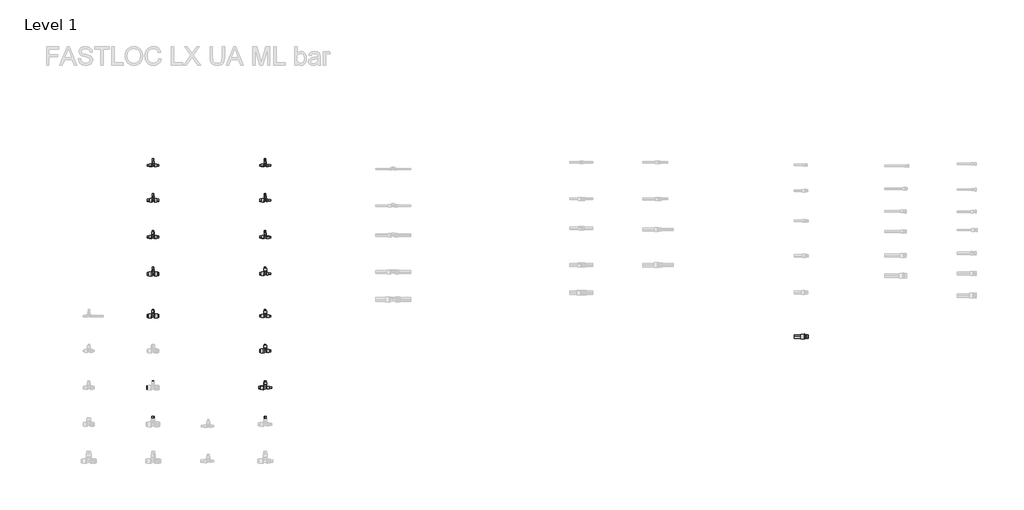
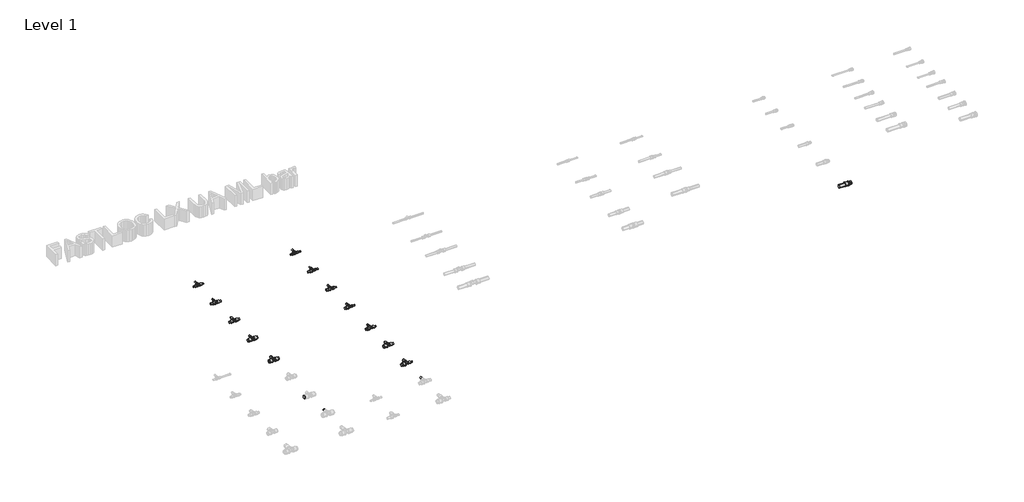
# One storey, part 22 of 78: 41 pipe segments, 13 pipe fittings.
"""IFC4 building model written with IfcOpenShell, lengths in millimetres."""

from ifc_helpers import new_model, si_unit, point, frame, frame_2d, origin, place, context, project, spatial, circle_curve, trimmed, segment, composite_curve, outline, extrude, transform, mapped, element, save
from components import pipe_fitting_7435f538, pipe_fitting_5ae7c970, pipe_fitting_e97a97d3, pipe_fitting_d9a56b63, pipe_fitting_a094db19, pipe_fitting_5d5decb5, pipe_fitting_f2600fd0, pipe_fitting_8d489ee2, pipe_fitting_8fb58d5f, pipe_fitting_db17a53a, pipe_fitting_3bea6388, pipe_fitting_e638986c, pipe_fitting_e8fea69e

model = new_model("IFC4")

# Units and contexts
model_context = context("Model", 3, world=origin())
ifc_project = project(units=[si_unit("LENGTHUNIT", "METRE", prefix="MILLI")], contexts=[model_context])

# Site, building, storey
site = spatial("IfcSite", under=ifc_project)
building = spatial("IfcBuilding", under=site)
storey = spatial("IfcBuildingStorey", under=building, Name="Level 1", Elevation=0.0)

# Pipe fittings
placement = place(None, origin())
pipe_fitting_shape = pipe_fitting_7435f538(model_context)
element("IfcPipeFitting", 1, ObjectType="FASTLOC_T-piece_LX : FSL T-Piece LX UA", at=placement, inside=storey, context=model_context, shape_type="MappedRepresentation", body=[
    mapped(pipe_fitting_shape, transform((426.7498072, -11880.2405791, 0.0), x_axis=(1.0, 0.0, 0.0), y_axis=(0.0, 1.0, 0.0), z_axis=(0.0, 0.0, 1.0))),
])
pipe_fitting_2_shape = pipe_fitting_5ae7c970(model_context)
element("IfcPipeFitting", 2, ObjectType="FASTLOC_T-piece_LX : FSL T-Piece LX UA", at=placement, inside=storey, context=model_context, shape_type="MappedRepresentation", body=[
    mapped(pipe_fitting_2_shape, transform((426.7498072, -10240.2405791, 0.0), x_axis=(1.0, 0.0, 0.0), y_axis=(0.0, 1.0, 0.0), z_axis=(0.0, 0.0, 1.0))),
])
pipe_fitting_3_shape = pipe_fitting_e97a97d3(model_context)
element("IfcPipeFitting", 3, ObjectType="FASTLOC_T-piece_LX : FSL T-Piece LX UA", at=placement, inside=storey, context=model_context, shape_type="MappedRepresentation", body=[
    mapped(pipe_fitting_3_shape, transform((426.7498072, -10620.2405791, 0.0), x_axis=(1.0, 0.0, 0.0), y_axis=(0.0, 1.0, 0.0), z_axis=(0.0, 0.0, 1.0))),
])
pipe_fitting_4_shape = pipe_fitting_d9a56b63(model_context)
element("IfcPipeFitting", 4, ObjectType="FASTLOC_T-piece_LX : FSL T-Piece LX UA", at=placement, inside=storey, context=model_context, shape_type="MappedRepresentation", body=[
    mapped(pipe_fitting_4_shape, transform((426.7498072, -11020.2405791, 0.0), x_axis=(1.0, 0.0, 0.0), y_axis=(0.0, 1.0, 0.0), z_axis=(0.0, 0.0, 1.0))),
])
pipe_fitting_5_shape = pipe_fitting_a094db19(model_context)
element("IfcPipeFitting", 5, ObjectType="FASTLOC_T-piece_LX : FSL T-Piece LX UA", at=placement, inside=storey, context=model_context, shape_type="MappedRepresentation", body=[
    mapped(pipe_fitting_5_shape, transform((426.7498072, -11420.2405791, 0.0), x_axis=(1.0, 0.0, 0.0), y_axis=(0.0, 1.0, 0.0), z_axis=(0.0, 0.0, 1.0))),
])
pipe_fitting_6_shape = pipe_fitting_5d5decb5(model_context)
element("IfcPipeFitting", 6, ObjectType="FASTLOC_T-piece_LX : FSL T-Piece LX UA", at=placement, inside=storey, context=model_context, shape_type="MappedRepresentation", body=[
    mapped(pipe_fitting_6_shape, transform((1646.7498072, -11880.2405791, 0.0), x_axis=(1.0, 0.0, 0.0), y_axis=(0.0, 1.0, 0.0), z_axis=(0.0, 0.0, 1.0))),
])
pipe_fitting_7_shape = pipe_fitting_f2600fd0(model_context)
element("IfcPipeFitting", 7, ObjectType="FASTLOC_T-piece_LX : FSL T-Piece LX UA", at=placement, inside=storey, context=model_context, shape_type="MappedRepresentation", body=[
    mapped(pipe_fitting_7_shape, transform((1646.7498072, -12260.2405791, 0.0), x_axis=(1.0, 0.0, 0.0), y_axis=(0.0, 1.0, 0.0), z_axis=(0.0, 0.0, 1.0))),
])
pipe_fitting_8_shape = pipe_fitting_8d489ee2(model_context)
element("IfcPipeFitting", 8, ObjectType="FASTLOC_T-piece_LX : FSL T-Piece LX UA", at=placement, inside=storey, context=model_context, shape_type="MappedRepresentation", body=[
    mapped(pipe_fitting_8_shape, transform((1646.7498072, -12660.2405791, 0.0), x_axis=(1.0, 0.0, 0.0), y_axis=(0.0, 1.0, 0.0), z_axis=(0.0, 0.0, 1.0))),
])
pipe_fitting_9_shape = pipe_fitting_8fb58d5f(model_context)
element("IfcPipeFitting", 9, ObjectType="FASTLOC_T-piece_LX : FSL T-Piece LX UA", at=placement, inside=storey, context=model_context, shape_type="MappedRepresentation", body=[
    mapped(pipe_fitting_9_shape, transform((1646.7498072, -10240.2405791, 0.0), x_axis=(1.0, 0.0, 0.0), y_axis=(0.0, 1.0, 0.0), z_axis=(0.0, 0.0, 1.0))),
])
pipe_fitting_10_shape = pipe_fitting_db17a53a(model_context)
element("IfcPipeFitting", 10, ObjectType="FASTLOC_T-piece_LX : FSL T-Piece LX UA", at=placement, inside=storey, context=model_context, shape_type="MappedRepresentation", body=[
    mapped(pipe_fitting_10_shape, transform((1646.7498072, -10620.2405791, 0.0), x_axis=(1.0, 0.0, 0.0), y_axis=(0.0, 1.0, 0.0), z_axis=(0.0, 0.0, 1.0))),
])
pipe_fitting_11_shape = pipe_fitting_3bea6388(model_context)
element("IfcPipeFitting", 11, ObjectType="FASTLOC_T-piece_LX : FSL T-Piece LX UA", at=placement, inside=storey, context=model_context, shape_type="MappedRepresentation", body=[
    mapped(pipe_fitting_11_shape, transform((1646.7498072, -11020.2405791, 0.0), x_axis=(1.0, 0.0, 0.0), y_axis=(0.0, 1.0, 0.0), z_axis=(0.0, 0.0, 1.0))),
])
pipe_fitting_12_shape = pipe_fitting_e638986c(model_context)
element("IfcPipeFitting", 12, ObjectType="FASTLOC_T-piece_LX : FSL T-Piece LX UA", at=placement, inside=storey, context=model_context, shape_type="MappedRepresentation", body=[
    mapped(pipe_fitting_12_shape, transform((1646.7498072, -11420.2405791, 0.0), x_axis=(1.0, 0.0, 0.0), y_axis=(0.0, 1.0, 0.0), z_axis=(0.0, 0.0, 1.0))),
])
pipe_fitting_13_shape = pipe_fitting_e8fea69e(model_context)
element("IfcPipeFitting", 13, ObjectType="FASTLOC_Adapter_LX, with external thread : FSL A C external UA", at=placement, inside=storey, context=model_context, shape_type="MappedRepresentation", body=[
    mapped(pipe_fitting_13_shape, transform((7526.8953131, -12104.2068389, 0.0), x_axis=(1.0, 0.0, 0.0), y_axis=(0.0, 1.0, 0.0), z_axis=(0.0, 0.0, 1.0))),
])

# Pipe segments
element("IfcPipeSegment", 14, ObjectType="FASTLOC LX ML UA bar", at=placement, inside=storey, context=model_context, shape_type="SweptSolid", body=[
    extrude(outline(composite_curve([segment(trimmed(circle_curve(frame_2d((-11880.2405791, 0.0)), 16.0), [point((-11896.2405791, 0.0))], [point((-11880.2405791, 16.0))], False, "CARTESIAN"), True, "CONTINUOUS"), segment(trimmed(circle_curve(frame_2d((-11880.2405791, 0.0)), 16.0), [point((-11880.2405791, 16.0))], [point((-11864.2405791, 0.0))], False, "CARTESIAN"), True, "CONTINUOUS"), segment(trimmed(circle_curve(frame_2d((-11880.2405791, 0.0)), 16.0), [point((-11864.2405791, 0.0))], [point((-11880.2405791, -16.0))], False, "CARTESIAN"), True, "CONTINUOUS"), segment(trimmed(circle_curve(frame_2d((-11880.2405791, 0.0)), 16.0), [point((-11880.2405791, -16.0))], [point((-11896.2405791, 0.0))], False, "CARTESIAN"), True, "CONTINUOUS")], self_intersect=False)), frame((446.9498072, 0.0, 0.0), z_axis=(1.0, 0.0, 0.0), x_axis=(0.0, 1.0, 0.0)), (0.0, 0.0, 1.0), 41.8),
])
element("IfcPipeSegment", 15, ObjectType="FASTLOC LX ML UA bar", at=placement, inside=storey, context=model_context, shape_type="SweptSolid", body=[
    extrude(outline(composite_curve([segment(trimmed(circle_curve(frame_2d((-11880.2405791, 0.0)), 16.0), [point((-11864.2405791, 0.0))], [point((-11880.2405791, -16.0))], False, "CARTESIAN"), True, "CONTINUOUS"), segment(trimmed(circle_curve(frame_2d((-11880.2405791, 0.0)), 16.0), [point((-11880.2405791, -16.0))], [point((-11896.2405791, 0.0))], False, "CARTESIAN"), True, "CONTINUOUS"), segment(trimmed(circle_curve(frame_2d((-11880.2405791, 0.0)), 16.0), [point((-11896.2405791, 0.0))], [point((-11880.2405791, 16.0))], False, "CARTESIAN"), True, "CONTINUOUS"), segment(trimmed(circle_curve(frame_2d((-11880.2405791, 0.0)), 16.0), [point((-11880.2405791, 16.0))], [point((-11864.2405791, 0.0))], False, "CARTESIAN"), True, "CONTINUOUS")], self_intersect=False)), frame((364.7498072, 0.0, 0.0), z_axis=(1.0, 0.0, 0.0), x_axis=(0.0, 1.0, 0.0)), (0.0, 0.0, 1.0), 41.8),
])
element("IfcPipeSegment", 16, ObjectType="FASTLOC LX ML UA bar", at=placement, inside=storey, context=model_context, shape_type="SweptSolid", body=[
    extrude(outline(composite_curve([segment(trimmed(circle_curve(frame_2d((0.0, 426.7498072)), 8.0), [point((0.0, 434.7498072))], [point((8.0, 426.7498072))], False, "CARTESIAN"), True, "CONTINUOUS"), segment(trimmed(circle_curve(frame_2d((0.0, 426.7498072)), 8.0), [point((8.0, 426.7498072))], [point((0.0, 418.7498072))], False, "CARTESIAN"), True, "CONTINUOUS"), segment(trimmed(circle_curve(frame_2d((0.0, 426.7498072)), 8.0), [point((0.0, 418.7498072))], [point((-8.0, 426.7498072))], False, "CARTESIAN"), True, "CONTINUOUS"), segment(trimmed(circle_curve(frame_2d((0.0, 426.7498072)), 8.0), [point((-8.0, 426.7498072))], [point((0.0, 434.7498072))], False, "CARTESIAN"), True, "CONTINUOUS")], self_intersect=False)), frame((0.0, -11846.2405791, 0.0), z_axis=(0.0, 1.0, 0.0), x_axis=(0.0, 0.0, 1.0)), (0.0, 0.0, 1.0), 38.3),
])
element("IfcPipeSegment", 17, ObjectType="FASTLOC LX ML UA bar", at=placement, inside=storey, context=model_context, shape_type="SweptSolid", body=[
    extrude(outline(composite_curve([segment(trimmed(circle_curve(frame_2d((-12660.2405791, 0.0)), 20.0), [point((-12640.2405791, 0.0))], [point((-12660.2405791, -20.0))], False, "CARTESIAN"), True, "CONTINUOUS"), segment(trimmed(circle_curve(frame_2d((-12660.2405791, 0.0)), 20.0), [point((-12660.2405791, -20.0))], [point((-12680.2405791, 0.0))], False, "CARTESIAN"), True, "CONTINUOUS"), segment(trimmed(circle_curve(frame_2d((-12660.2405791, 0.0)), 20.0), [point((-12680.2405791, 0.0))], [point((-12660.2405791, 20.0))], False, "CARTESIAN"), True, "CONTINUOUS"), segment(trimmed(circle_curve(frame_2d((-12660.2405791, 0.0)), 20.0), [point((-12660.2405791, 20.0))], [point((-12640.2405791, 0.0))], False, "CARTESIAN"), True, "CONTINUOUS")], self_intersect=False)), frame((357.7498072, 0.0, 0.0), z_axis=(1.0, 0.0, 0.0), x_axis=(0.0, 1.0, 0.0)), (0.0, 0.0, 1.0), 45.0),
])
element("IfcPipeSegment", 18, ObjectType="FASTLOC LX ML UA bar", at=placement, inside=storey, context=model_context, shape_type="SweptSolid", body=[
    extrude(outline(composite_curve([segment(trimmed(circle_curve(frame_2d((0.0, 426.7498072)), 8.0), [point((0.0, 434.7498072))], [point((8.0, 426.7498072))], False, "CARTESIAN"), True, "CONTINUOUS"), segment(trimmed(circle_curve(frame_2d((0.0, 426.7498072)), 8.0), [point((8.0, 426.7498072))], [point((0.0, 418.7498072))], False, "CARTESIAN"), True, "CONTINUOUS"), segment(trimmed(circle_curve(frame_2d((0.0, 426.7498072)), 8.0), [point((0.0, 418.7498072))], [point((-8.0, 426.7498072))], False, "CARTESIAN"), True, "CONTINUOUS"), segment(trimmed(circle_curve(frame_2d((0.0, 426.7498072)), 8.0), [point((-8.0, 426.7498072))], [point((0.0, 434.7498072))], False, "CARTESIAN"), True, "CONTINUOUS")], self_intersect=False)), frame((0.0, -12619.7405791, 0.0), z_axis=(0.0, 1.0, 0.0), x_axis=(0.0, 0.0, 1.0)), (0.0, 0.0, 1.0), 31.8),
])
element("IfcPipeSegment", 19, ObjectType="FASTLOC LX ML UA bar", at=placement, inside=storey, context=model_context, shape_type="SweptSolid", body=[
    extrude(outline(composite_curve([segment(trimmed(circle_curve(frame_2d((0.0, 426.7498072)), 12.5), [point((0.0, 439.2498072))], [point((12.5, 426.7498072))], False, "CARTESIAN"), True, "CONTINUOUS"), segment(trimmed(circle_curve(frame_2d((0.0, 426.7498072)), 12.5), [point((12.5, 426.7498072))], [point((0.0, 414.2498072))], False, "CARTESIAN"), True, "CONTINUOUS"), segment(trimmed(circle_curve(frame_2d((0.0, 426.7498072)), 12.5), [point((0.0, 414.2498072))], [point((-12.5, 426.7498072))], False, "CARTESIAN"), True, "CONTINUOUS"), segment(trimmed(circle_curve(frame_2d((0.0, 426.7498072)), 12.5), [point((-12.5, 426.7498072))], [point((0.0, 439.2498072))], False, "CARTESIAN"), True, "CONTINUOUS")], self_intersect=False)), frame((0.0, -13019.2405791, 0.0), z_axis=(0.0, 1.0, 0.0), x_axis=(0.0, 0.0, 1.0)), (0.0, 0.0, 1.0), 46.8),
])
element("IfcPipeSegment", 20, ObjectType="FASTLOC LX ML UA bar", at=placement, inside=storey, context=model_context, shape_type="SweptSolid", body=[
    extrude(outline(composite_curve([segment(trimmed(circle_curve(frame_2d((-10240.2405791, 0.0)), 8.0), [point((-10248.2405791, 0.0))], [point((-10240.2405791, 8.0))], False, "CARTESIAN"), True, "CONTINUOUS"), segment(trimmed(circle_curve(frame_2d((-10240.2405791, 0.0)), 8.0), [point((-10240.2405791, 8.0))], [point((-10232.2405791, 0.0))], False, "CARTESIAN"), True, "CONTINUOUS"), segment(trimmed(circle_curve(frame_2d((-10240.2405791, 0.0)), 8.0), [point((-10232.2405791, 0.0))], [point((-10240.2405791, -8.0))], False, "CARTESIAN"), True, "CONTINUOUS"), segment(trimmed(circle_curve(frame_2d((-10240.2405791, 0.0)), 8.0), [point((-10240.2405791, -8.0))], [point((-10248.2405791, 0.0))], False, "CARTESIAN"), True, "CONTINUOUS")], self_intersect=False)), frame((442.0498072, 0.0, 0.0), z_axis=(1.0, 0.0, 0.0), x_axis=(0.0, 1.0, 0.0)), (0.0, 0.0, 1.0), 46.7),
])
element("IfcPipeSegment", 21, ObjectType="FASTLOC LX ML UA bar", at=placement, inside=storey, context=model_context, shape_type="SweptSolid", body=[
    extrude(outline(composite_curve([segment(trimmed(circle_curve(frame_2d((-10240.2405791, 0.0)), 8.0), [point((-10232.2405791, 0.0))], [point((-10240.2405791, -8.0))], False, "CARTESIAN"), True, "CONTINUOUS"), segment(trimmed(circle_curve(frame_2d((-10240.2405791, 0.0)), 8.0), [point((-10240.2405791, -8.0))], [point((-10248.2405791, 0.0))], False, "CARTESIAN"), True, "CONTINUOUS"), segment(trimmed(circle_curve(frame_2d((-10240.2405791, 0.0)), 8.0), [point((-10248.2405791, 0.0))], [point((-10240.2405791, 8.0))], False, "CARTESIAN"), True, "CONTINUOUS"), segment(trimmed(circle_curve(frame_2d((-10240.2405791, 0.0)), 8.0), [point((-10240.2405791, 8.0))], [point((-10232.2405791, 0.0))], False, "CARTESIAN"), True, "CONTINUOUS")], self_intersect=False)), frame((364.7498072, 0.0, 0.0), z_axis=(1.0, 0.0, 0.0), x_axis=(0.0, 1.0, 0.0)), (0.0, 0.0, 1.0), 46.7),
])
element("IfcPipeSegment", 22, ObjectType="FASTLOC LX ML UA bar", at=placement, inside=storey, context=model_context, shape_type="SweptSolid", body=[
    extrude(outline(composite_curve([segment(trimmed(circle_curve(frame_2d((0.0, 426.7498072)), 8.0), [point((0.0, 434.7498072))], [point((8.0, 426.7498072))], False, "CARTESIAN"), True, "CONTINUOUS"), segment(trimmed(circle_curve(frame_2d((0.0, 426.7498072)), 8.0), [point((8.0, 426.7498072))], [point((0.0, 418.7498072))], False, "CARTESIAN"), True, "CONTINUOUS"), segment(trimmed(circle_curve(frame_2d((0.0, 426.7498072)), 8.0), [point((0.0, 418.7498072))], [point((-8.0, 426.7498072))], False, "CARTESIAN"), True, "CONTINUOUS"), segment(trimmed(circle_curve(frame_2d((0.0, 426.7498072)), 8.0), [point((-8.0, 426.7498072))], [point((0.0, 434.7498072))], False, "CARTESIAN"), True, "CONTINUOUS")], self_intersect=False)), frame((0.0, -10213.9405791, 0.0), z_axis=(0.0, 1.0, 0.0), x_axis=(0.0, 0.0, 1.0)), (0.0, 0.0, 1.0), 46.0),
])
element("IfcPipeSegment", 23, ObjectType="FASTLOC LX ML UA bar", at=placement, inside=storey, context=model_context, shape_type="SweptSolid", body=[
    extrude(outline(composite_curve([segment(trimmed(circle_curve(frame_2d((-10620.2405791, 0.0)), 12.5), [point((-10632.7405791, 0.0))], [point((-10620.2405791, 12.5))], False, "CARTESIAN"), True, "CONTINUOUS"), segment(trimmed(circle_curve(frame_2d((-10620.2405791, 0.0)), 12.5), [point((-10620.2405791, 12.5))], [point((-10607.7405791, 0.0))], False, "CARTESIAN"), True, "CONTINUOUS"), segment(trimmed(circle_curve(frame_2d((-10620.2405791, 0.0)), 12.5), [point((-10607.7405791, 0.0))], [point((-10620.2405791, -12.5))], False, "CARTESIAN"), True, "CONTINUOUS"), segment(trimmed(circle_curve(frame_2d((-10620.2405791, 0.0)), 12.5), [point((-10620.2405791, -12.5))], [point((-10632.7405791, 0.0))], False, "CARTESIAN"), True, "CONTINUOUS")], self_intersect=False)), frame((442.9498072, 0.0, 0.0), z_axis=(1.0, 0.0, 0.0), x_axis=(0.0, 1.0, 0.0)), (0.0, 0.0, 1.0), 45.8),
])
element("IfcPipeSegment", 24, ObjectType="FASTLOC LX ML UA bar", at=placement, inside=storey, context=model_context, shape_type="SweptSolid", body=[
    extrude(outline(composite_curve([segment(trimmed(circle_curve(frame_2d((-10620.2405791, 0.0)), 12.5), [point((-10607.7405791, 0.0))], [point((-10620.2405791, -12.5))], False, "CARTESIAN"), True, "CONTINUOUS"), segment(trimmed(circle_curve(frame_2d((-10620.2405791, 0.0)), 12.5), [point((-10620.2405791, -12.5))], [point((-10632.7405791, 0.0))], False, "CARTESIAN"), True, "CONTINUOUS"), segment(trimmed(circle_curve(frame_2d((-10620.2405791, 0.0)), 12.5), [point((-10632.7405791, 0.0))], [point((-10620.2405791, 12.5))], False, "CARTESIAN"), True, "CONTINUOUS"), segment(trimmed(circle_curve(frame_2d((-10620.2405791, 0.0)), 12.5), [point((-10620.2405791, 12.5))], [point((-10607.7405791, 0.0))], False, "CARTESIAN"), True, "CONTINUOUS")], self_intersect=False)), frame((364.7498072, 0.0, 0.0), z_axis=(1.0, 0.0, 0.0), x_axis=(0.0, 1.0, 0.0)), (0.0, 0.0, 1.0), 45.8),
])
element("IfcPipeSegment", 25, ObjectType="FASTLOC LX ML UA bar", at=placement, inside=storey, context=model_context, shape_type="SweptSolid", body=[
    extrude(outline(composite_curve([segment(trimmed(circle_curve(frame_2d((0.0, 426.7498072)), 8.0), [point((0.0, 434.7498072))], [point((8.0, 426.7498072))], False, "CARTESIAN"), True, "CONTINUOUS"), segment(trimmed(circle_curve(frame_2d((0.0, 426.7498072)), 8.0), [point((8.0, 426.7498072))], [point((0.0, 418.7498072))], False, "CARTESIAN"), True, "CONTINUOUS"), segment(trimmed(circle_curve(frame_2d((0.0, 426.7498072)), 8.0), [point((0.0, 418.7498072))], [point((-8.0, 426.7498072))], False, "CARTESIAN"), True, "CONTINUOUS"), segment(trimmed(circle_curve(frame_2d((0.0, 426.7498072)), 8.0), [point((-8.0, 426.7498072))], [point((0.0, 434.7498072))], False, "CARTESIAN"), True, "CONTINUOUS")], self_intersect=False)), frame((0.0, -10591.2405791, 0.0), z_axis=(0.0, 1.0, 0.0), x_axis=(0.0, 0.0, 1.0)), (0.0, 0.0, 1.0), 43.3),
])
element("IfcPipeSegment", 26, ObjectType="FASTLOC LX ML UA bar", at=placement, inside=storey, context=model_context, shape_type="SweptSolid", body=[
    extrude(outline(composite_curve([segment(trimmed(circle_curve(frame_2d((-11020.2405791, 0.0)), 12.5), [point((-11032.7405791, 0.0))], [point((-11020.2405791, 12.5))], False, "CARTESIAN"), True, "CONTINUOUS"), segment(trimmed(circle_curve(frame_2d((-11020.2405791, 0.0)), 12.5), [point((-11020.2405791, 12.5))], [point((-11007.7405791, 0.0))], False, "CARTESIAN"), True, "CONTINUOUS"), segment(trimmed(circle_curve(frame_2d((-11020.2405791, 0.0)), 12.5), [point((-11007.7405791, 0.0))], [point((-11020.2405791, -12.5))], False, "CARTESIAN"), True, "CONTINUOUS"), segment(trimmed(circle_curve(frame_2d((-11020.2405791, 0.0)), 12.5), [point((-11020.2405791, -12.5))], [point((-11032.7405791, 0.0))], False, "CARTESIAN"), True, "CONTINUOUS")], self_intersect=False)), frame((444.8498072, 0.0, 0.0), z_axis=(1.0, 0.0, 0.0), x_axis=(0.0, 1.0, 0.0)), (0.0, 0.0, 1.0), 43.9),
])
element("IfcPipeSegment", 27, ObjectType="FASTLOC LX ML UA bar", at=placement, inside=storey, context=model_context, shape_type="SweptSolid", body=[
    extrude(outline(composite_curve([segment(trimmed(circle_curve(frame_2d((-11020.2405791, 0.0)), 12.5), [point((-11007.7405791, 0.0))], [point((-11020.2405791, -12.5))], False, "CARTESIAN"), True, "CONTINUOUS"), segment(trimmed(circle_curve(frame_2d((-11020.2405791, 0.0)), 12.5), [point((-11020.2405791, -12.5))], [point((-11032.7405791, 0.0))], False, "CARTESIAN"), True, "CONTINUOUS"), segment(trimmed(circle_curve(frame_2d((-11020.2405791, 0.0)), 12.5), [point((-11032.7405791, 0.0))], [point((-11020.2405791, 12.5))], False, "CARTESIAN"), True, "CONTINUOUS"), segment(trimmed(circle_curve(frame_2d((-11020.2405791, 0.0)), 12.5), [point((-11020.2405791, 12.5))], [point((-11007.7405791, 0.0))], False, "CARTESIAN"), True, "CONTINUOUS")], self_intersect=False)), frame((364.7498072, 0.0, 0.0), z_axis=(1.0, 0.0, 0.0), x_axis=(0.0, 1.0, 0.0)), (0.0, 0.0, 1.0), 43.9),
])
element("IfcPipeSegment", 28, ObjectType="FASTLOC LX ML UA bar", at=placement, inside=storey, context=model_context, shape_type="SweptSolid", body=[
    extrude(outline(composite_curve([segment(trimmed(circle_curve(frame_2d((0.0, 426.7498072)), 8.0), [point((0.0, 434.7498072))], [point((8.0, 426.7498072))], False, "CARTESIAN"), True, "CONTINUOUS"), segment(trimmed(circle_curve(frame_2d((0.0, 426.7498072)), 8.0), [point((8.0, 426.7498072))], [point((0.0, 418.7498072))], False, "CARTESIAN"), True, "CONTINUOUS"), segment(trimmed(circle_curve(frame_2d((0.0, 426.7498072)), 8.0), [point((0.0, 418.7498072))], [point((-8.0, 426.7498072))], False, "CARTESIAN"), True, "CONTINUOUS"), segment(trimmed(circle_curve(frame_2d((0.0, 426.7498072)), 8.0), [point((-8.0, 426.7498072))], [point((0.0, 434.7498072))], False, "CARTESIAN"), True, "CONTINUOUS")], self_intersect=False)), frame((0.0, -10991.0405791, 0.0), z_axis=(0.0, 1.0, 0.0), x_axis=(0.0, 0.0, 1.0)), (0.0, 0.0, 1.0), 43.1),
])
element("IfcPipeSegment", 29, ObjectType="FASTLOC LX ML UA bar", at=placement, inside=storey, context=model_context, shape_type="SweptSolid", body=[
    extrude(outline(composite_curve([segment(trimmed(circle_curve(frame_2d((-11420.2405791, 0.0)), 16.0), [point((-11436.2405791, 0.0))], [point((-11420.2405791, 16.0))], False, "CARTESIAN"), True, "CONTINUOUS"), segment(trimmed(circle_curve(frame_2d((-11420.2405791, 0.0)), 16.0), [point((-11420.2405791, 16.0))], [point((-11404.2405791, 0.0))], False, "CARTESIAN"), True, "CONTINUOUS"), segment(trimmed(circle_curve(frame_2d((-11420.2405791, 0.0)), 16.0), [point((-11404.2405791, 0.0))], [point((-11420.2405791, -16.0))], False, "CARTESIAN"), True, "CONTINUOUS"), segment(trimmed(circle_curve(frame_2d((-11420.2405791, 0.0)), 16.0), [point((-11420.2405791, -16.0))], [point((-11436.2405791, 0.0))], False, "CARTESIAN"), True, "CONTINUOUS")], self_intersect=False)), frame((445.0498072, 0.0, 0.0), z_axis=(1.0, 0.0, 0.0), x_axis=(0.0, 1.0, 0.0)), (0.0, 0.0, 1.0), 43.7),
])
element("IfcPipeSegment", 30, ObjectType="FASTLOC LX ML UA bar", at=placement, inside=storey, context=model_context, shape_type="SweptSolid", body=[
    extrude(outline(composite_curve([segment(trimmed(circle_curve(frame_2d((-11420.2405791, 0.0)), 16.0), [point((-11404.2405791, 0.0))], [point((-11420.2405791, -16.0))], False, "CARTESIAN"), True, "CONTINUOUS"), segment(trimmed(circle_curve(frame_2d((-11420.2405791, 0.0)), 16.0), [point((-11420.2405791, -16.0))], [point((-11436.2405791, 0.0))], False, "CARTESIAN"), True, "CONTINUOUS"), segment(trimmed(circle_curve(frame_2d((-11420.2405791, 0.0)), 16.0), [point((-11436.2405791, 0.0))], [point((-11420.2405791, 16.0))], False, "CARTESIAN"), True, "CONTINUOUS"), segment(trimmed(circle_curve(frame_2d((-11420.2405791, 0.0)), 16.0), [point((-11420.2405791, 16.0))], [point((-11404.2405791, 0.0))], False, "CARTESIAN"), True, "CONTINUOUS")], self_intersect=False)), frame((364.7498072, 0.0, 0.0), z_axis=(1.0, 0.0, 0.0), x_axis=(0.0, 1.0, 0.0)), (0.0, 0.0, 1.0), 43.7),
])
element("IfcPipeSegment", 31, ObjectType="FASTLOC LX ML UA bar", at=placement, inside=storey, context=model_context, shape_type="SweptSolid", body=[
    extrude(outline(composite_curve([segment(trimmed(circle_curve(frame_2d((0.0, 426.7498072)), 8.0), [point((0.0, 434.7498072))], [point((8.0, 426.7498072))], False, "CARTESIAN"), True, "CONTINUOUS"), segment(trimmed(circle_curve(frame_2d((0.0, 426.7498072)), 8.0), [point((8.0, 426.7498072))], [point((0.0, 418.7498072))], False, "CARTESIAN"), True, "CONTINUOUS"), segment(trimmed(circle_curve(frame_2d((0.0, 426.7498072)), 8.0), [point((0.0, 418.7498072))], [point((-8.0, 426.7498072))], False, "CARTESIAN"), True, "CONTINUOUS"), segment(trimmed(circle_curve(frame_2d((0.0, 426.7498072)), 8.0), [point((-8.0, 426.7498072))], [point((0.0, 434.7498072))], False, "CARTESIAN"), True, "CONTINUOUS")], self_intersect=False)), frame((0.0, -11386.3405791, 0.0), z_axis=(0.0, 1.0, 0.0), x_axis=(0.0, 0.0, 1.0)), (0.0, 0.0, 1.0), 38.4),
])
element("IfcPipeSegment", 32, ObjectType="FASTLOC LX ML UA bar", at=placement, inside=storey, context=model_context, shape_type="SweptSolid", body=[
    extrude(outline(composite_curve([segment(trimmed(circle_curve(frame_2d((-11880.2405791, 0.0)), 8.0), [point((-11888.2405791, 0.0))], [point((-11880.2405791, 8.0))], False, "CARTESIAN"), True, "CONTINUOUS"), segment(trimmed(circle_curve(frame_2d((-11880.2405791, 0.0)), 8.0), [point((-11880.2405791, 8.0))], [point((-11872.2405791, 0.0))], False, "CARTESIAN"), True, "CONTINUOUS"), segment(trimmed(circle_curve(frame_2d((-11880.2405791, 0.0)), 8.0), [point((-11872.2405791, 0.0))], [point((-11880.2405791, -8.0))], False, "CARTESIAN"), True, "CONTINUOUS"), segment(trimmed(circle_curve(frame_2d((-11880.2405791, 0.0)), 8.0), [point((-11880.2405791, -8.0))], [point((-11888.2405791, 0.0))], False, "CARTESIAN"), True, "CONTINUOUS")], self_intersect=False)), frame((1664.1498072, 0.0, 0.0), z_axis=(1.0, 0.0, 0.0), x_axis=(0.0, 1.0, 0.0)), (0.0, 0.0, 1.0), 44.6),
])
element("IfcPipeSegment", 33, ObjectType="FASTLOC LX ML UA bar", at=placement, inside=storey, context=model_context, shape_type="SweptSolid", body=[
    extrude(outline(composite_curve([segment(trimmed(circle_curve(frame_2d((-11880.2405791, 0.0)), 12.5), [point((-11867.7405791, 0.0))], [point((-11880.2405791, -12.5))], False, "CARTESIAN"), True, "CONTINUOUS"), segment(trimmed(circle_curve(frame_2d((-11880.2405791, 0.0)), 12.5), [point((-11880.2405791, -12.5))], [point((-11892.7405791, 0.0))], False, "CARTESIAN"), True, "CONTINUOUS"), segment(trimmed(circle_curve(frame_2d((-11880.2405791, 0.0)), 12.5), [point((-11892.7405791, 0.0))], [point((-11880.2405791, 12.5))], False, "CARTESIAN"), True, "CONTINUOUS"), segment(trimmed(circle_curve(frame_2d((-11880.2405791, 0.0)), 12.5), [point((-11880.2405791, 12.5))], [point((-11867.7405791, 0.0))], False, "CARTESIAN"), True, "CONTINUOUS")], self_intersect=False)), frame((1584.7498072, 0.0, 0.0), z_axis=(1.0, 0.0, 0.0), x_axis=(0.0, 1.0, 0.0)), (0.0, 0.0, 1.0), 43.7),
])
element("IfcPipeSegment", 34, ObjectType="FASTLOC LX ML UA bar", at=placement, inside=storey, context=model_context, shape_type="SweptSolid", body=[
    extrude(outline(composite_curve([segment(trimmed(circle_curve(frame_2d((0.0, 1646.7498072)), 8.0), [point((0.0, 1654.7498072))], [point((8.0, 1646.7498072))], False, "CARTESIAN"), True, "CONTINUOUS"), segment(trimmed(circle_curve(frame_2d((0.0, 1646.7498072)), 8.0), [point((8.0, 1646.7498072))], [point((0.0, 1638.7498072))], False, "CARTESIAN"), True, "CONTINUOUS"), segment(trimmed(circle_curve(frame_2d((0.0, 1646.7498072)), 8.0), [point((0.0, 1638.7498072))], [point((-8.0, 1646.7498072))], False, "CARTESIAN"), True, "CONTINUOUS"), segment(trimmed(circle_curve(frame_2d((0.0, 1646.7498072)), 8.0), [point((-8.0, 1646.7498072))], [point((0.0, 1654.7498072))], False, "CARTESIAN"), True, "CONTINUOUS")], self_intersect=False)), frame((0.0, -11851.0405791, 0.0), z_axis=(0.0, 1.0, 0.0), x_axis=(0.0, 0.0, 1.0)), (0.0, 0.0, 1.0), 43.1),
])
element("IfcPipeSegment", 35, ObjectType="FASTLOC LX ML UA bar", at=placement, inside=storey, context=model_context, shape_type="SweptSolid", body=[
    extrude(outline(composite_curve([segment(trimmed(circle_curve(frame_2d((-12260.2405791, 0.0)), 12.5), [point((-12272.7405791, 0.0))], [point((-12260.2405791, 12.5))], False, "CARTESIAN"), True, "CONTINUOUS"), segment(trimmed(circle_curve(frame_2d((-12260.2405791, 0.0)), 12.5), [point((-12260.2405791, 12.5))], [point((-12247.7405791, 0.0))], False, "CARTESIAN"), True, "CONTINUOUS"), segment(trimmed(circle_curve(frame_2d((-12260.2405791, 0.0)), 12.5), [point((-12247.7405791, 0.0))], [point((-12260.2405791, -12.5))], False, "CARTESIAN"), True, "CONTINUOUS"), segment(trimmed(circle_curve(frame_2d((-12260.2405791, 0.0)), 12.5), [point((-12260.2405791, -12.5))], [point((-12272.7405791, 0.0))], False, "CARTESIAN"), True, "CONTINUOUS")], self_intersect=False)), frame((1665.0498072, 0.0, 0.0), z_axis=(1.0, 0.0, 0.0), x_axis=(0.0, 1.0, 0.0)), (0.0, 0.0, 1.0), 43.7),
])
element("IfcPipeSegment", 36, ObjectType="FASTLOC LX ML UA bar", at=placement, inside=storey, context=model_context, shape_type="SweptSolid", body=[
    extrude(outline(composite_curve([segment(trimmed(circle_curve(frame_2d((-12260.2405791, 0.0)), 16.0), [point((-12244.2405791, 0.0))], [point((-12260.2405791, -16.0))], False, "CARTESIAN"), True, "CONTINUOUS"), segment(trimmed(circle_curve(frame_2d((-12260.2405791, 0.0)), 16.0), [point((-12260.2405791, -16.0))], [point((-12276.2405791, 0.0))], False, "CARTESIAN"), True, "CONTINUOUS"), segment(trimmed(circle_curve(frame_2d((-12260.2405791, 0.0)), 16.0), [point((-12276.2405791, 0.0))], [point((-12260.2405791, 16.0))], False, "CARTESIAN"), True, "CONTINUOUS"), segment(trimmed(circle_curve(frame_2d((-12260.2405791, 0.0)), 16.0), [point((-12260.2405791, 16.0))], [point((-12244.2405791, 0.0))], False, "CARTESIAN"), True, "CONTINUOUS")], self_intersect=False)), frame((1584.7498072, 0.0, 0.0), z_axis=(1.0, 0.0, 0.0), x_axis=(0.0, 1.0, 0.0)), (0.0, 0.0, 1.0), 41.7),
])
element("IfcPipeSegment", 37, ObjectType="FASTLOC LX ML UA bar", at=placement, inside=storey, context=model_context, shape_type="SweptSolid", body=[
    extrude(outline(composite_curve([segment(trimmed(circle_curve(frame_2d((0.0, 1646.7498072)), 8.0), [point((0.0, 1654.7498072))], [point((8.0, 1646.7498072))], False, "CARTESIAN"), True, "CONTINUOUS"), segment(trimmed(circle_curve(frame_2d((0.0, 1646.7498072)), 8.0), [point((8.0, 1646.7498072))], [point((0.0, 1638.7498072))], False, "CARTESIAN"), True, "CONTINUOUS"), segment(trimmed(circle_curve(frame_2d((0.0, 1646.7498072)), 8.0), [point((0.0, 1638.7498072))], [point((-8.0, 1646.7498072))], False, "CARTESIAN"), True, "CONTINUOUS"), segment(trimmed(circle_curve(frame_2d((0.0, 1646.7498072)), 8.0), [point((-8.0, 1646.7498072))], [point((0.0, 1654.7498072))], False, "CARTESIAN"), True, "CONTINUOUS")], self_intersect=False)), frame((0.0, -12226.2405791, 0.0), z_axis=(0.0, 1.0, 0.0), x_axis=(0.0, 0.0, 1.0)), (0.0, 0.0, 1.0), 38.3),
])
element("IfcPipeSegment", 38, ObjectType="FASTLOC LX ML UA bar", at=placement, inside=storey, context=model_context, shape_type="SweptSolid", body=[
    extrude(outline(composite_curve([segment(trimmed(circle_curve(frame_2d((-12660.2405791, 0.0)), 8.0), [point((-12668.2405791, 0.0))], [point((-12660.2405791, 8.0))], False, "CARTESIAN"), True, "CONTINUOUS"), segment(trimmed(circle_curve(frame_2d((-12660.2405791, 0.0)), 8.0), [point((-12660.2405791, 8.0))], [point((-12652.2405791, 0.0))], False, "CARTESIAN"), True, "CONTINUOUS"), segment(trimmed(circle_curve(frame_2d((-12660.2405791, 0.0)), 8.0), [point((-12652.2405791, 0.0))], [point((-12660.2405791, -8.0))], False, "CARTESIAN"), True, "CONTINUOUS"), segment(trimmed(circle_curve(frame_2d((-12660.2405791, 0.0)), 8.0), [point((-12660.2405791, -8.0))], [point((-12668.2405791, 0.0))], False, "CARTESIAN"), True, "CONTINUOUS")], self_intersect=False)), frame((1665.9498072, 0.0, 0.0), z_axis=(1.0, 0.0, 0.0), x_axis=(0.0, 1.0, 0.0)), (0.0, 0.0, 1.0), 49.8),
])
element("IfcPipeSegment", 39, ObjectType="FASTLOC LX ML UA bar", at=placement, inside=storey, context=model_context, shape_type="SweptSolid", body=[
    extrude(outline(composite_curve([segment(trimmed(circle_curve(frame_2d((-12660.2405791, 0.0)), 16.0), [point((-12644.2405791, 0.0))], [point((-12660.2405791, -16.0))], False, "CARTESIAN"), True, "CONTINUOUS"), segment(trimmed(circle_curve(frame_2d((-12660.2405791, 0.0)), 16.0), [point((-12660.2405791, -16.0))], [point((-12676.2405791, 0.0))], False, "CARTESIAN"), True, "CONTINUOUS"), segment(trimmed(circle_curve(frame_2d((-12660.2405791, 0.0)), 16.0), [point((-12676.2405791, 0.0))], [point((-12660.2405791, 16.0))], False, "CARTESIAN"), True, "CONTINUOUS"), segment(trimmed(circle_curve(frame_2d((-12660.2405791, 0.0)), 16.0), [point((-12660.2405791, 16.0))], [point((-12644.2405791, 0.0))], False, "CARTESIAN"), True, "CONTINUOUS")], self_intersect=False)), frame((1577.7498072, 0.0, 0.0), z_axis=(1.0, 0.0, 0.0), x_axis=(0.0, 1.0, 0.0)), (0.0, 0.0, 1.0), 46.9),
])
element("IfcPipeSegment", 40, ObjectType="FASTLOC LX ML UA bar", at=placement, inside=storey, context=model_context, shape_type="SweptSolid", body=[
    extrude(outline(composite_curve([segment(trimmed(circle_curve(frame_2d((0.0, 1646.7498072)), 12.5), [point((0.0, 1659.2498072))], [point((12.5, 1646.7498072))], False, "CARTESIAN"), True, "CONTINUOUS"), segment(trimmed(circle_curve(frame_2d((0.0, 1646.7498072)), 12.5), [point((12.5, 1646.7498072))], [point((0.0, 1634.2498072))], False, "CARTESIAN"), True, "CONTINUOUS"), segment(trimmed(circle_curve(frame_2d((0.0, 1646.7498072)), 12.5), [point((0.0, 1634.2498072))], [point((-12.5, 1646.7498072))], False, "CARTESIAN"), True, "CONTINUOUS"), segment(trimmed(circle_curve(frame_2d((0.0, 1646.7498072)), 12.5), [point((-12.5, 1646.7498072))], [point((0.0, 1659.2498072))], False, "CARTESIAN"), True, "CONTINUOUS")], self_intersect=False)), frame((0.0, -12625.8405791, 0.0), z_axis=(0.0, 1.0, 0.0), x_axis=(0.0, 0.0, 1.0)), (0.0, 0.0, 1.0), 37.9),
])
element("IfcPipeSegment", 41, ObjectType="FASTLOC LX ML UA bar", at=placement, inside=storey, context=model_context, shape_type="SweptSolid", body=[
    extrude(outline(composite_curve([segment(trimmed(circle_curve(frame_2d((0.0, 1646.7498072)), 12.5), [point((0.0, 1659.2498072))], [point((12.5, 1646.7498072))], False, "CARTESIAN"), True, "CONTINUOUS"), segment(trimmed(circle_curve(frame_2d((0.0, 1646.7498072)), 12.5), [point((12.5, 1646.7498072))], [point((0.0, 1634.2498072))], False, "CARTESIAN"), True, "CONTINUOUS"), segment(trimmed(circle_curve(frame_2d((0.0, 1646.7498072)), 12.5), [point((0.0, 1634.2498072))], [point((-12.5, 1646.7498072))], False, "CARTESIAN"), True, "CONTINUOUS"), segment(trimmed(circle_curve(frame_2d((0.0, 1646.7498072)), 12.5), [point((-12.5, 1646.7498072))], [point((0.0, 1659.2498072))], False, "CARTESIAN"), True, "CONTINUOUS")], self_intersect=False)), frame((0.0, -13025.8405791, 0.0), z_axis=(0.0, 1.0, 0.0), x_axis=(0.0, 0.0, 1.0)), (0.0, 0.0, 1.0), 53.4),
])
element("IfcPipeSegment", 42, ObjectType="FASTLOC LX ML UA bar", at=placement, inside=storey, context=model_context, shape_type="SweptSolid", body=[
    extrude(outline(composite_curve([segment(trimmed(circle_curve(frame_2d((-10240.2405791, 0.0)), 8.0), [point((-10248.2405791, 0.0))], [point((-10240.2405791, 8.0))], False, "CARTESIAN"), True, "CONTINUOUS"), segment(trimmed(circle_curve(frame_2d((-10240.2405791, 0.0)), 8.0), [point((-10240.2405791, 8.0))], [point((-10232.2405791, 0.0))], False, "CARTESIAN"), True, "CONTINUOUS"), segment(trimmed(circle_curve(frame_2d((-10240.2405791, 0.0)), 8.0), [point((-10232.2405791, 0.0))], [point((-10240.2405791, -8.0))], False, "CARTESIAN"), True, "CONTINUOUS"), segment(trimmed(circle_curve(frame_2d((-10240.2405791, 0.0)), 8.0), [point((-10240.2405791, -8.0))], [point((-10248.2405791, 0.0))], False, "CARTESIAN"), True, "CONTINUOUS")], self_intersect=False)), frame((1661.8498072, 0.0, 0.0), z_axis=(1.0, 0.0, 0.0), x_axis=(0.0, 1.0, 0.0)), (0.0, 0.0, 1.0), 46.9),
])
element("IfcPipeSegment", 43, ObjectType="FASTLOC LX ML UA bar", at=placement, inside=storey, context=model_context, shape_type="SweptSolid", body=[
    extrude(outline(composite_curve([segment(trimmed(circle_curve(frame_2d((-10240.2405791, 0.0)), 8.0), [point((-10232.2405791, 0.0))], [point((-10240.2405791, -8.0))], False, "CARTESIAN"), True, "CONTINUOUS"), segment(trimmed(circle_curve(frame_2d((-10240.2405791, 0.0)), 8.0), [point((-10240.2405791, -8.0))], [point((-10248.2405791, 0.0))], False, "CARTESIAN"), True, "CONTINUOUS"), segment(trimmed(circle_curve(frame_2d((-10240.2405791, 0.0)), 8.0), [point((-10248.2405791, 0.0))], [point((-10240.2405791, 8.0))], False, "CARTESIAN"), True, "CONTINUOUS"), segment(trimmed(circle_curve(frame_2d((-10240.2405791, 0.0)), 8.0), [point((-10240.2405791, 8.0))], [point((-10232.2405791, 0.0))], False, "CARTESIAN"), True, "CONTINUOUS")], self_intersect=False)), frame((1584.7498072, 0.0, 0.0), z_axis=(1.0, 0.0, 0.0), x_axis=(0.0, 1.0, 0.0)), (0.0, 0.0, 1.0), 46.5),
])
element("IfcPipeSegment", 44, ObjectType="FASTLOC LX ML UA bar", at=placement, inside=storey, context=model_context, shape_type="SweptSolid", body=[
    extrude(outline(composite_curve([segment(trimmed(circle_curve(frame_2d((0.0, 1646.7498072)), 8.0), [point((0.0, 1654.7498072))], [point((8.0, 1646.7498072))], False, "CARTESIAN"), True, "CONTINUOUS"), segment(trimmed(circle_curve(frame_2d((0.0, 1646.7498072)), 8.0), [point((8.0, 1646.7498072))], [point((0.0, 1638.7498072))], False, "CARTESIAN"), True, "CONTINUOUS"), segment(trimmed(circle_curve(frame_2d((0.0, 1646.7498072)), 8.0), [point((0.0, 1638.7498072))], [point((-8.0, 1646.7498072))], False, "CARTESIAN"), True, "CONTINUOUS"), segment(trimmed(circle_curve(frame_2d((0.0, 1646.7498072)), 8.0), [point((-8.0, 1646.7498072))], [point((0.0, 1654.7498072))], False, "CARTESIAN"), True, "CONTINUOUS")], self_intersect=False)), frame((0.0, -10213.8405791, 0.0), z_axis=(0.0, 1.0, 0.0), x_axis=(0.0, 0.0, 1.0)), (0.0, 0.0, 1.0), 45.9),
])
element("IfcPipeSegment", 45, ObjectType="FASTLOC LX ML UA bar", at=placement, inside=storey, context=model_context, shape_type="SweptSolid", body=[
    extrude(outline(composite_curve([segment(trimmed(circle_curve(frame_2d((-10620.2405791, 0.0)), 8.0), [point((-10628.2405791, 0.0))], [point((-10620.2405791, 8.0))], False, "CARTESIAN"), True, "CONTINUOUS"), segment(trimmed(circle_curve(frame_2d((-10620.2405791, 0.0)), 8.0), [point((-10620.2405791, 8.0))], [point((-10612.2405791, 0.0))], False, "CARTESIAN"), True, "CONTINUOUS"), segment(trimmed(circle_curve(frame_2d((-10620.2405791, 0.0)), 8.0), [point((-10612.2405791, 0.0))], [point((-10620.2405791, -8.0))], False, "CARTESIAN"), True, "CONTINUOUS"), segment(trimmed(circle_curve(frame_2d((-10620.2405791, 0.0)), 8.0), [point((-10620.2405791, -8.0))], [point((-10628.2405791, 0.0))], False, "CARTESIAN"), True, "CONTINUOUS")], self_intersect=False)), frame((1661.8498072, 0.0, 0.0), z_axis=(1.0, 0.0, 0.0), x_axis=(0.0, 1.0, 0.0)), (0.0, 0.0, 1.0), 46.9),
])
element("IfcPipeSegment", 46, ObjectType="FASTLOC LX ML UA bar", at=placement, inside=storey, context=model_context, shape_type="SweptSolid", body=[
    extrude(outline(composite_curve([segment(trimmed(circle_curve(frame_2d((-10620.2405791, 0.0)), 12.5), [point((-10607.7405791, 0.0))], [point((-10620.2405791, -12.5))], False, "CARTESIAN"), True, "CONTINUOUS"), segment(trimmed(circle_curve(frame_2d((-10620.2405791, 0.0)), 12.5), [point((-10620.2405791, -12.5))], [point((-10632.7405791, 0.0))], False, "CARTESIAN"), True, "CONTINUOUS"), segment(trimmed(circle_curve(frame_2d((-10620.2405791, 0.0)), 12.5), [point((-10632.7405791, 0.0))], [point((-10620.2405791, 12.5))], False, "CARTESIAN"), True, "CONTINUOUS"), segment(trimmed(circle_curve(frame_2d((-10620.2405791, 0.0)), 12.5), [point((-10620.2405791, 12.5))], [point((-10607.7405791, 0.0))], False, "CARTESIAN"), True, "CONTINUOUS")], self_intersect=False)), frame((1584.7498072, 0.0, 0.0), z_axis=(1.0, 0.0, 0.0), x_axis=(0.0, 1.0, 0.0)), (0.0, 0.0, 1.0), 45.6),
])
element("IfcPipeSegment", 47, ObjectType="FASTLOC LX ML UA bar", at=placement, inside=storey, context=model_context, shape_type="SweptSolid", body=[
    extrude(outline(composite_curve([segment(trimmed(circle_curve(frame_2d((0.0, 1646.7498072)), 8.0), [point((0.0, 1654.7498072))], [point((8.0, 1646.7498072))], False, "CARTESIAN"), True, "CONTINUOUS"), segment(trimmed(circle_curve(frame_2d((0.0, 1646.7498072)), 8.0), [point((8.0, 1646.7498072))], [point((0.0, 1638.7498072))], False, "CARTESIAN"), True, "CONTINUOUS"), segment(trimmed(circle_curve(frame_2d((0.0, 1646.7498072)), 8.0), [point((0.0, 1638.7498072))], [point((-8.0, 1646.7498072))], False, "CARTESIAN"), True, "CONTINUOUS"), segment(trimmed(circle_curve(frame_2d((0.0, 1646.7498072)), 8.0), [point((-8.0, 1646.7498072))], [point((0.0, 1654.7498072))], False, "CARTESIAN"), True, "CONTINUOUS")], self_intersect=False)), frame((0.0, -10591.1405791, 0.0), z_axis=(0.0, 1.0, 0.0), x_axis=(0.0, 0.0, 1.0)), (0.0, 0.0, 1.0), 43.2),
])
element("IfcPipeSegment", 48, ObjectType="FASTLOC LX ML UA bar", at=placement, inside=storey, context=model_context, shape_type="SweptSolid", body=[
    extrude(outline(composite_curve([segment(trimmed(circle_curve(frame_2d((-11020.2405791, 0.0)), 8.0), [point((-11028.2405791, 0.0))], [point((-11020.2405791, 8.0))], False, "CARTESIAN"), True, "CONTINUOUS"), segment(trimmed(circle_curve(frame_2d((-11020.2405791, 0.0)), 8.0), [point((-11020.2405791, 8.0))], [point((-11012.2405791, 0.0))], False, "CARTESIAN"), True, "CONTINUOUS"), segment(trimmed(circle_curve(frame_2d((-11020.2405791, 0.0)), 8.0), [point((-11012.2405791, 0.0))], [point((-11020.2405791, -8.0))], False, "CARTESIAN"), True, "CONTINUOUS"), segment(trimmed(circle_curve(frame_2d((-11020.2405791, 0.0)), 8.0), [point((-11020.2405791, -8.0))], [point((-11028.2405791, 0.0))], False, "CARTESIAN"), True, "CONTINUOUS")], self_intersect=False)), frame((1662.2498072, 0.0, 0.0), z_axis=(1.0, 0.0, 0.0), x_axis=(0.0, 1.0, 0.0)), (0.0, 0.0, 1.0), 46.5),
])
element("IfcPipeSegment", 49, ObjectType="FASTLOC LX ML UA bar", at=placement, inside=storey, context=model_context, shape_type="SweptSolid", body=[
    extrude(outline(composite_curve([segment(trimmed(circle_curve(frame_2d((-11020.2405791, 0.0)), 12.5), [point((-11007.7405791, 0.0))], [point((-11020.2405791, -12.5))], False, "CARTESIAN"), True, "CONTINUOUS"), segment(trimmed(circle_curve(frame_2d((-11020.2405791, 0.0)), 12.5), [point((-11020.2405791, -12.5))], [point((-11032.7405791, 0.0))], False, "CARTESIAN"), True, "CONTINUOUS"), segment(trimmed(circle_curve(frame_2d((-11020.2405791, 0.0)), 12.5), [point((-11032.7405791, 0.0))], [point((-11020.2405791, 12.5))], False, "CARTESIAN"), True, "CONTINUOUS"), segment(trimmed(circle_curve(frame_2d((-11020.2405791, 0.0)), 12.5), [point((-11020.2405791, 12.5))], [point((-11007.7405791, 0.0))], False, "CARTESIAN"), True, "CONTINUOUS")], self_intersect=False)), frame((1584.7498072, 0.0, 0.0), z_axis=(1.0, 0.0, 0.0), x_axis=(0.0, 1.0, 0.0)), (0.0, 0.0, 1.0), 45.6),
])
element("IfcPipeSegment", 50, ObjectType="FASTLOC LX ML UA bar", at=placement, inside=storey, context=model_context, shape_type="SweptSolid", body=[
    extrude(outline(composite_curve([segment(trimmed(circle_curve(frame_2d((0.0, 1646.7498072)), 8.0), [point((0.0, 1654.7498072))], [point((8.0, 1646.7498072))], False, "CARTESIAN"), True, "CONTINUOUS"), segment(trimmed(circle_curve(frame_2d((0.0, 1646.7498072)), 8.0), [point((8.0, 1646.7498072))], [point((0.0, 1638.7498072))], False, "CARTESIAN"), True, "CONTINUOUS"), segment(trimmed(circle_curve(frame_2d((0.0, 1646.7498072)), 8.0), [point((0.0, 1638.7498072))], [point((-8.0, 1646.7498072))], False, "CARTESIAN"), True, "CONTINUOUS"), segment(trimmed(circle_curve(frame_2d((0.0, 1646.7498072)), 8.0), [point((-8.0, 1646.7498072))], [point((0.0, 1654.7498072))], False, "CARTESIAN"), True, "CONTINUOUS")], self_intersect=False)), frame((0.0, -10991.1405791, 0.0), z_axis=(0.0, 1.0, 0.0), x_axis=(0.0, 0.0, 1.0)), (0.0, 0.0, 1.0), 43.2),
])
element("IfcPipeSegment", 51, ObjectType="FASTLOC LX ML UA bar", at=placement, inside=storey, context=model_context, shape_type="SweptSolid", body=[
    extrude(outline(composite_curve([segment(trimmed(circle_curve(frame_2d((-11420.2405791, 0.0)), 8.0), [point((-11428.2405791, 0.0))], [point((-11420.2405791, 8.0))], False, "CARTESIAN"), True, "CONTINUOUS"), segment(trimmed(circle_curve(frame_2d((-11420.2405791, 0.0)), 8.0), [point((-11420.2405791, 8.0))], [point((-11412.2405791, 0.0))], False, "CARTESIAN"), True, "CONTINUOUS"), segment(trimmed(circle_curve(frame_2d((-11420.2405791, 0.0)), 8.0), [point((-11412.2405791, 0.0))], [point((-11420.2405791, -8.0))], False, "CARTESIAN"), True, "CONTINUOUS"), segment(trimmed(circle_curve(frame_2d((-11420.2405791, 0.0)), 8.0), [point((-11420.2405791, -8.0))], [point((-11428.2405791, 0.0))], False, "CARTESIAN"), True, "CONTINUOUS")], self_intersect=False)), frame((1663.7498072, 0.0, 0.0), z_axis=(1.0, 0.0, 0.0), x_axis=(0.0, 1.0, 0.0)), (0.0, 0.0, 1.0), 45.0),
])
element("IfcPipeSegment", 52, ObjectType="FASTLOC LX ML UA bar", at=placement, inside=storey, context=model_context, shape_type="SweptSolid", body=[
    extrude(outline(composite_curve([segment(trimmed(circle_curve(frame_2d((-11420.2405791, 0.0)), 12.5), [point((-11407.7405791, 0.0))], [point((-11420.2405791, -12.5))], False, "CARTESIAN"), True, "CONTINUOUS"), segment(trimmed(circle_curve(frame_2d((-11420.2405791, 0.0)), 12.5), [point((-11420.2405791, -12.5))], [point((-11432.7405791, 0.0))], False, "CARTESIAN"), True, "CONTINUOUS"), segment(trimmed(circle_curve(frame_2d((-11420.2405791, 0.0)), 12.5), [point((-11432.7405791, 0.0))], [point((-11420.2405791, 12.5))], False, "CARTESIAN"), True, "CONTINUOUS"), segment(trimmed(circle_curve(frame_2d((-11420.2405791, 0.0)), 12.5), [point((-11420.2405791, 12.5))], [point((-11407.7405791, 0.0))], False, "CARTESIAN"), True, "CONTINUOUS")], self_intersect=False)), frame((1584.7498072, 0.0, 0.0), z_axis=(1.0, 0.0, 0.0), x_axis=(0.0, 1.0, 0.0)), (0.0, 0.0, 1.0), 43.7),
])
element("IfcPipeSegment", 53, ObjectType="FASTLOC LX ML UA bar", at=placement, inside=storey, context=model_context, shape_type="SweptSolid", body=[
    extrude(outline(composite_curve([segment(trimmed(circle_curve(frame_2d((0.0, 1646.7498072)), 8.0), [point((0.0, 1654.7498072))], [point((8.0, 1646.7498072))], False, "CARTESIAN"), True, "CONTINUOUS"), segment(trimmed(circle_curve(frame_2d((0.0, 1646.7498072)), 8.0), [point((8.0, 1646.7498072))], [point((0.0, 1638.7498072))], False, "CARTESIAN"), True, "CONTINUOUS"), segment(trimmed(circle_curve(frame_2d((0.0, 1646.7498072)), 8.0), [point((0.0, 1638.7498072))], [point((-8.0, 1646.7498072))], False, "CARTESIAN"), True, "CONTINUOUS"), segment(trimmed(circle_curve(frame_2d((0.0, 1646.7498072)), 8.0), [point((-8.0, 1646.7498072))], [point((0.0, 1654.7498072))], False, "CARTESIAN"), True, "CONTINUOUS")], self_intersect=False)), frame((0.0, -11391.0405791, 0.0), z_axis=(0.0, 1.0, 0.0), x_axis=(0.0, 0.0, 1.0)), (0.0, 0.0, 1.0), 43.1),
])
element("IfcPipeSegment", 54, ObjectType="FASTLOC LX ML UA bar", at=placement, inside=storey, context=model_context, shape_type="SweptSolid", body=[
    extrude(outline(composite_curve([segment(trimmed(circle_curve(frame_2d((-12104.2068389, 0.0)), 20.0), [point((-12084.2068389, 0.0))], [point((-12104.2068389, -20.0))], False, "CARTESIAN"), True, "CONTINUOUS"), segment(trimmed(circle_curve(frame_2d((-12104.2068389, 0.0)), 20.0), [point((-12104.2068389, -20.0))], [point((-12124.2068389, 0.0))], False, "CARTESIAN"), True, "CONTINUOUS"), segment(trimmed(circle_curve(frame_2d((-12104.2068389, 0.0)), 20.0), [point((-12124.2068389, 0.0))], [point((-12104.2068389, 20.0))], False, "CARTESIAN"), True, "CONTINUOUS"), segment(trimmed(circle_curve(frame_2d((-12104.2068389, 0.0)), 20.0), [point((-12104.2068389, 20.0))], [point((-12084.2068389, 0.0))], False, "CARTESIAN"), True, "CONTINUOUS")], self_intersect=False)), frame((7402.0785179, 0.0, 0.0), z_axis=(1.0, 0.0, 0.0), x_axis=(0.0, 1.0, 0.0)), (0.0, 0.0, 1.0), 108.4167951),
])

save(model, "model.ifc")
